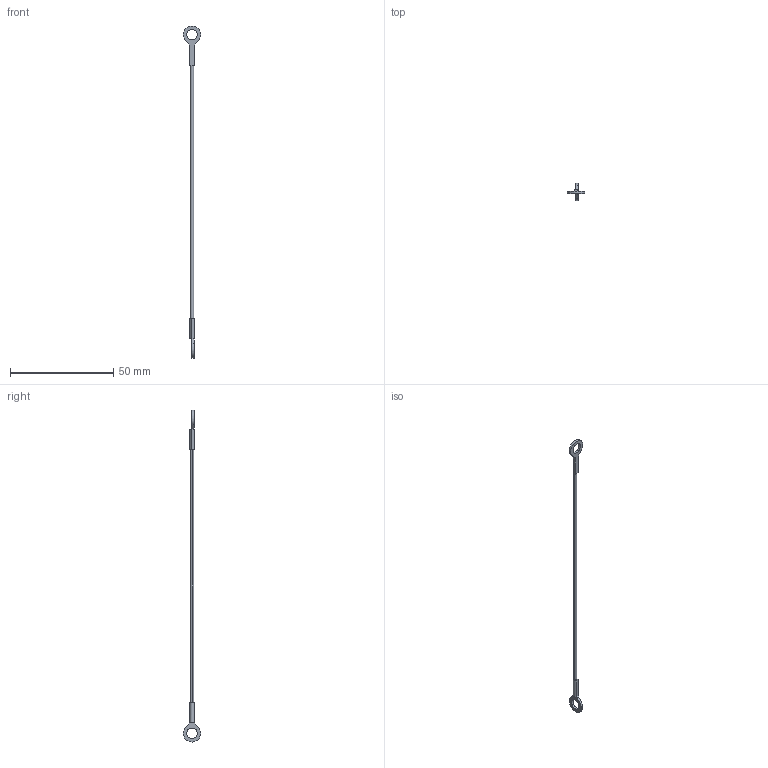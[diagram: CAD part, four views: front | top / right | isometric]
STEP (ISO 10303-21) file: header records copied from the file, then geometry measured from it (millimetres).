
FILE_DESCRIPTION (( 'STEP AP203' ), '1' );
FILE_NAME ('LA1070.I06-152N1.step', '2026-03-23T14:49:24', ( '' ), ( '' ), 'SwSTEP 2.0', 'SolidWorks 2019', '' );
FILE_SCHEMA (( 'CONFIG_CONTROL_DESIGN' ));
Length unit declared in the file: millimetre
Products named in the file (1): LA1070.I06-152N1
Bounding box: 8.36 x 8.35 x 160.76 mm (x, y, z)
Volume: 392.4 mm3; surface area: 995.8 mm2
Topology: 1 solids, 1 shells, 27 faces, 61 edges, 38 vertices
Faces by surface type: plane 16, cylinder 11
Entity records: 852 total; most frequent: CARTESIAN_POINT 151, DIRECTION 133, ORIENTED_EDGE 122, EDGE_CURVE 61, AXIS2_PLACEMENT_3D 48, VERTEX_POINT 38, LINE 37, VECTOR 37
